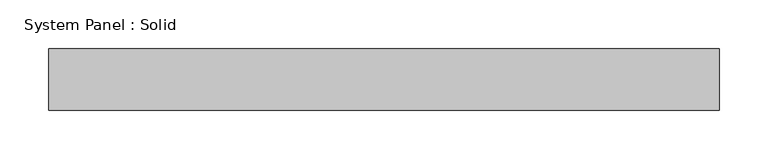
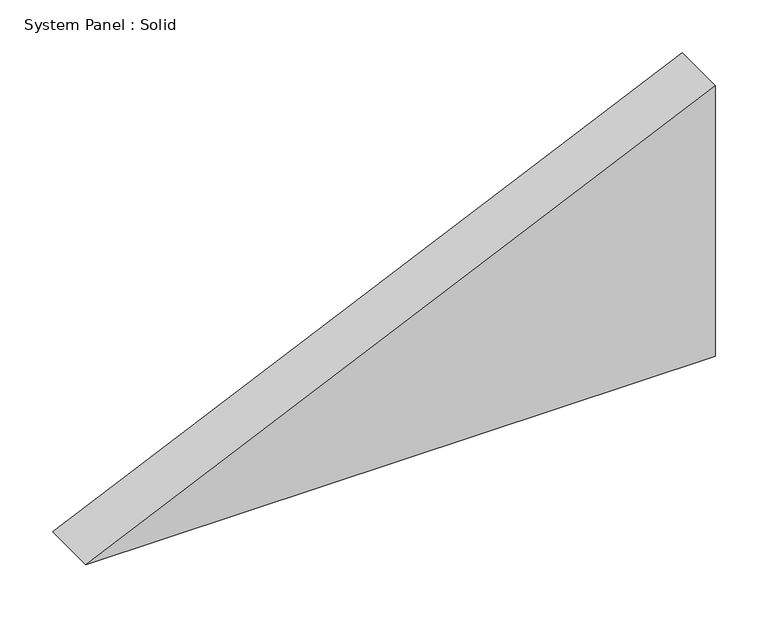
"""IFC4 building model written with IfcOpenShell, lengths in millimetres: plate geometry, System Panel : Solid."""

from ifc_helpers import new_model, si_unit, frame, origin, place, context, project, spatial, polyline, outline, extrude, source, transform, mapped, element, save


def system_panel_solid_ebf822bd(model_context):
    return source(origin(), model_context, "Body", "SweptSolid", [
        extrude(outline(polyline([(0.0, -345.7445982), (0.0, 345.7445982), (314.4394475, 345.7445982), (0.0, -345.7445982)])), frame((0.0, -19.05, 0.0), z_axis=(0.0, 1.0, 0.0), x_axis=(0.0, 0.0, 1.0)), (0.0, 0.0, 1.0), 63.5),
    ])


if __name__ == "__main__":
    model = new_model("IFC4")
    model_context = context("Model", 3, world=origin())
    ifc_project = project(units=[si_unit("LENGTHUNIT", "METRE", prefix="MILLI")], contexts=[model_context])
    site = spatial("IfcSite", under=ifc_project)
    building = spatial("IfcBuilding", under=site)
    placement = place(None, origin())
    system_panel_solid_shape = system_panel_solid_ebf822bd(model_context)
    element("IfcPlate", 1, ObjectType="System Panel : Solid", at=placement, inside=building, context=model_context, shape_type="MappedRepresentation", body=[
        mapped(system_panel_solid_shape, transform((0.0, 0.0, 0.0), x_axis=(1.0, 0.0, 0.0), y_axis=(0.0, 1.0, 0.0), z_axis=(0.0, 0.0, 1.0))),
    ])
    save(model, "model.ifc")
